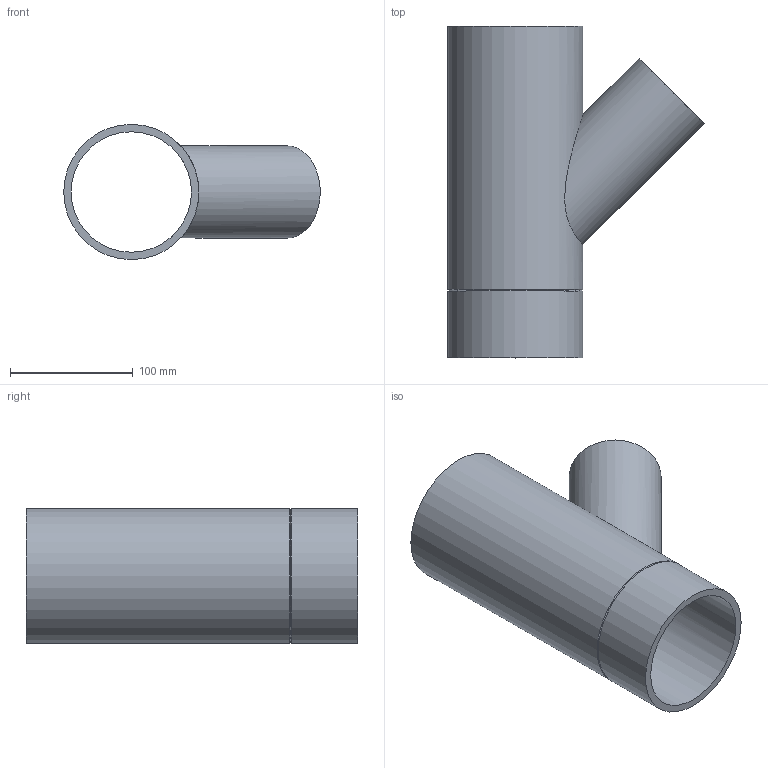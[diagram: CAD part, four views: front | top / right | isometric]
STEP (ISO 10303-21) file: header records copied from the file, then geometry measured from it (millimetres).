
FILE_DESCRIPTION(/* description */ (''),/* implementation_level */ '2;1');
FILE_NAME(/* name */ 'Z:\Geberit\Export\Export18\Abzweig Gerade_Ipart\stp\310074.stp',/* time_stamp */ '2014-08-26T21:51:59+02:00',/* author */ ('ML'),/* organization */ (''),/* preprocessor_version */ 'ST-DEVELOPER v15.2',/* originating_system */ 'Autodesk Inventor 2014',/* authorisation */ '');
FILE_SCHEMA (('AUTOMOTIVE_DESIGN { 1 0 10303 214 3 1 1 }'));
Length unit declared in the file: millimetre
Products named in the file (1): 310074
Bounding box: 208.8 x 270 x 110 mm (x, y, z)
Volume: 586176.8 mm3; surface area: 221415.4 mm2
Topology: 1 solids, 1 shells, 10 faces, 25 edges, 17 vertices
Faces by surface type: cylinder 5, plane 3, cone 2
Full cylindrical faces by diameter (mm): 67.8 x1, 75 x1, 98 x1, 110 x2
Entity records: 359 total; most frequent: CARTESIAN_POINT 155, DIRECTION 40, EDGE_LOOP 22, ORIENTED_EDGE 22, AXIS2_PLACEMENT_3D 20, FACE_BOUND 17, VERTEX_POINT 11, EDGE_CURVE 11
